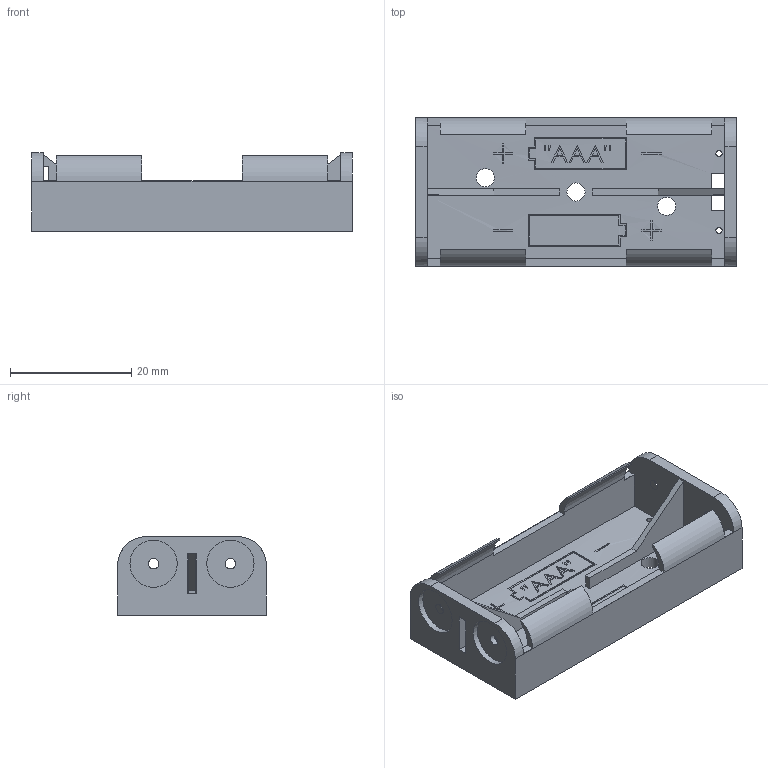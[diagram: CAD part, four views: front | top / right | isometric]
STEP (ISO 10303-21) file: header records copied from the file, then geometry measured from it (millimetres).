
FILE_DESCRIPTION(/* description */ ('STEP AP242 Edition 2','CAx-IF Rec.Pracs.---Representation and Presentation of Product Manufacturing Information (PMI)---4.0---2014-10-13','CAx-IF Rec.Pracs.---3D Tessellated Geometry---0.4---2014-09-14','2;1','CAx-IF Rec.Pracs.---User Defined Attributes---1.5---2016-08-15'),/* implementation_level */ '2;1');
FILE_NAME(/* name */ 'Part Studio 1 - Surface 29',/* time_stamp */ '2026-11-25T23:28:52Z',/* author */ (''),/* organization */ (''),/* preprocessor_version */ 'ST-DEVELOPER v20',/* originating_system */ 'ONSHAPE BY PTC INC, 1.224',/* authorisation */ ' ');
FILE_SCHEMA (('AP242_MANAGED_MODEL_BASED_3D_ENGINEERING_MIM_LF { 1 0 10303 442 3 1 4 }'));
Length unit declared in the file: metre
Products named in the file (1): NONE
Bounding box: 52.98 x 24.59 x 13 mm (x, y, z)
Surface area: 6268.9 mm2 (no closed solid volume)
Topology: 0 solids, 1 shells, 137 faces, 462 edges, 332 vertices
Faces by surface type: plane 118, cylinder 19
Full cylindrical faces by diameter (mm): 1.016 x2, 1.727 x1, 2.997 x3, 7.81 x4
Entity records: 5054 total; most frequent: CARTESIAN_POINT 1048, ORIENTED_EDGE 806, DIRECTION 745, EDGE_CURVE 452, LINE 351, VECTOR 351, VERTEX_POINT 332, AXIS2_PLACEMENT_3D 197
